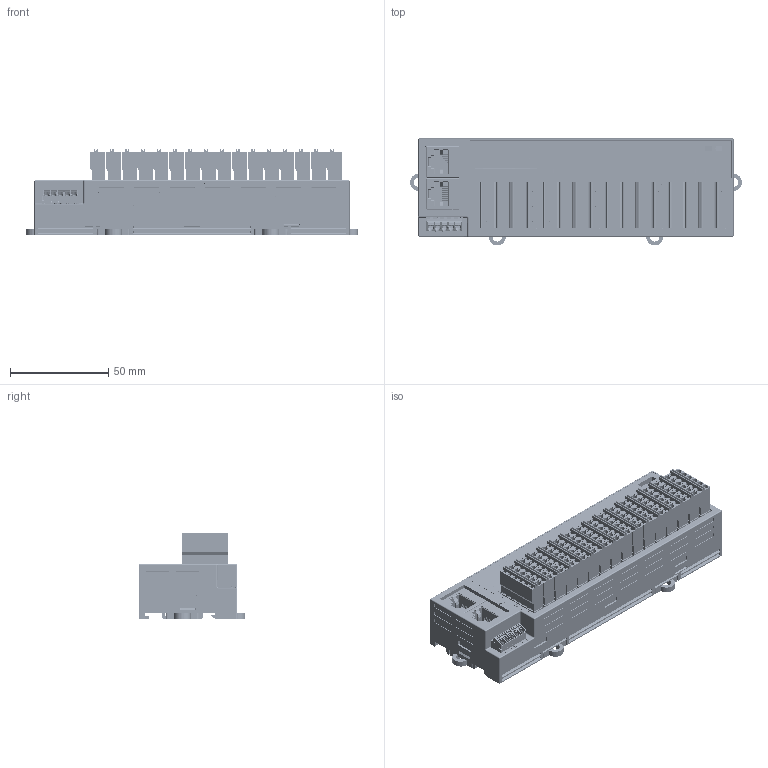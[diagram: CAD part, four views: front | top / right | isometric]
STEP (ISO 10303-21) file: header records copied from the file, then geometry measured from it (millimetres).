
FILE_DESCRIPTION((''),'2;1');
FILE_NAME('HCNXE-MD2408-D-0_ASM','2021-09-23T13:22:19',('Naoki'),(''),'CREO PARAMETRIC BY PTC INC, 2018050','CREO PARAMETRIC BY PTC INC, 2018050','');
FILE_SCHEMA(('CONFIG_CONTROL_DESIGN'));
Products named in the file (1): HCNXE-MD2408-D-0_ASM
Bounding box: 168.6 x 54.3 x 44 mm (x, y, z)
Volume: 183341.8 mm3; surface area: 145405.8 mm2
Topology: 30 solids, 291 shells, 14474 faces, 44150 edges, 29752 vertices
Faces by surface type: plane 10929, cylinder 1659, cone 630, extrusion 482, bspline 346, torus 221, sphere 207
Entity records: 551461 total; most frequent: CARTESIAN_POINT 165439, ORIENTED_EDGE 83639, DIRECTION 71433, EDGE_CURVE 43936, VECTOR 33239, LINE 32757, VERTEX_POINT 29750, AXIS2_PLACEMENT_3D 19097
